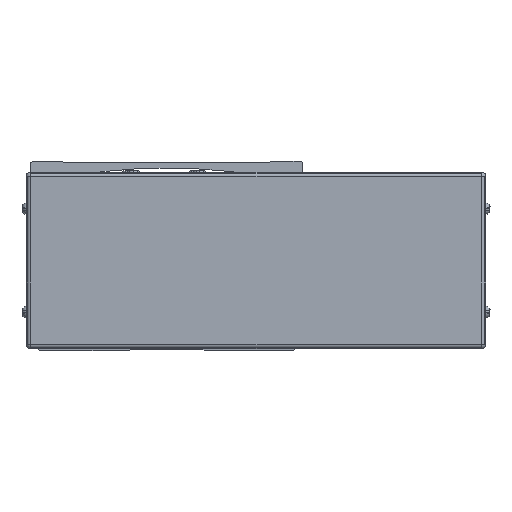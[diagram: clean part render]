
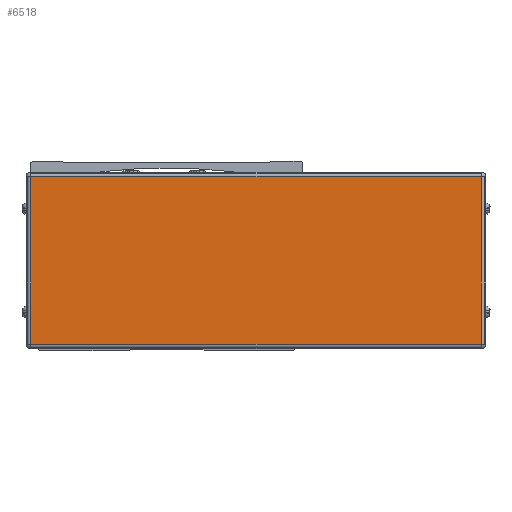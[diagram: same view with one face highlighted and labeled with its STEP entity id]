
A CAD part, front view. The second image highlights one B-rep face of the part: STEP entity #6518.
In plain terms, the highlighted planar face has unit normal (0, -1, 0).
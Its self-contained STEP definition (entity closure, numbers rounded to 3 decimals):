
#6518=ADVANCED_FACE('',(#13310),#13311,.T.);
#13310=FACE_OUTER_BOUND('',#21621,.T.);
#13311=PLANE('',#21622);
#21621=EDGE_LOOP('',(#41076,#41077,#41078,#41079));
#21622=AXIS2_PLACEMENT_3D('',#41080,#41081,#41082);
#41076=ORIENTED_EDGE('',*,*,#49476,.F.);
#41077=ORIENTED_EDGE('',*,*,#46177,.F.);
#41078=ORIENTED_EDGE('',*,*,#46153,.F.);
#41079=ORIENTED_EDGE('',*,*,#49434,.F.);
#41080=CARTESIAN_POINT('',(-259.5,-38.778,-8.));
#41081=DIRECTION('',(0.,-1.0,0.));
#41082=DIRECTION('',(1.0,0.,0.));
#46153=EDGE_CURVE('',#56316,#56318,#56319,.T.);
#46177=EDGE_CURVE('',#56318,#56359,#56360,.T.);
#49434=EDGE_CURVE('',#61092,#56316,#61094,.T.);
#49476=EDGE_CURVE('',#56359,#61092,#61143,.T.);
#56316=VERTEX_POINT('',#70568);
#56318=VERTEX_POINT('',#70570);
#56319=LINE('',#70571,#70572);
#56359=VERTEX_POINT('',#70626);
#56360=LINE('',#70627,#70628);
#61092=VERTEX_POINT('',#77625);
#61094=LINE('',#77627,#77628);
#61143=LINE('',#77706,#77707);
#70568=CARTESIAN_POINT('',(-361.7,-38.778,-46.));
#70570=CARTESIAN_POINT('',(-361.7,-38.778,30.));
#70571=CARTESIAN_POINT('',(-361.7,-38.778,-8.));
#70572=VECTOR('',#84497,10.0);
#70626=CARTESIAN_POINT('',(-157.3,-38.778,30.));
#70627=CARTESIAN_POINT('',(-259.5,-38.778,30.));
#70628=VECTOR('',#84524,10.0);
#77625=CARTESIAN_POINT('',(-157.3,-38.778,-46.));
#77627=CARTESIAN_POINT('',(-259.5,-38.778,-46.));
#77628=VECTOR('',#88302,10.0);
#77706=CARTESIAN_POINT('',(-157.3,-38.778,-8.));
#77707=VECTOR('',#88336,10.0);
#84497=DIRECTION('',(0.0,0.,1.0));
#84524=DIRECTION('',(1.0,0.,0.));
#88302=DIRECTION('',(-1.0,0.,0.));
#88336=DIRECTION('',(0.0,0.,-1.0));
